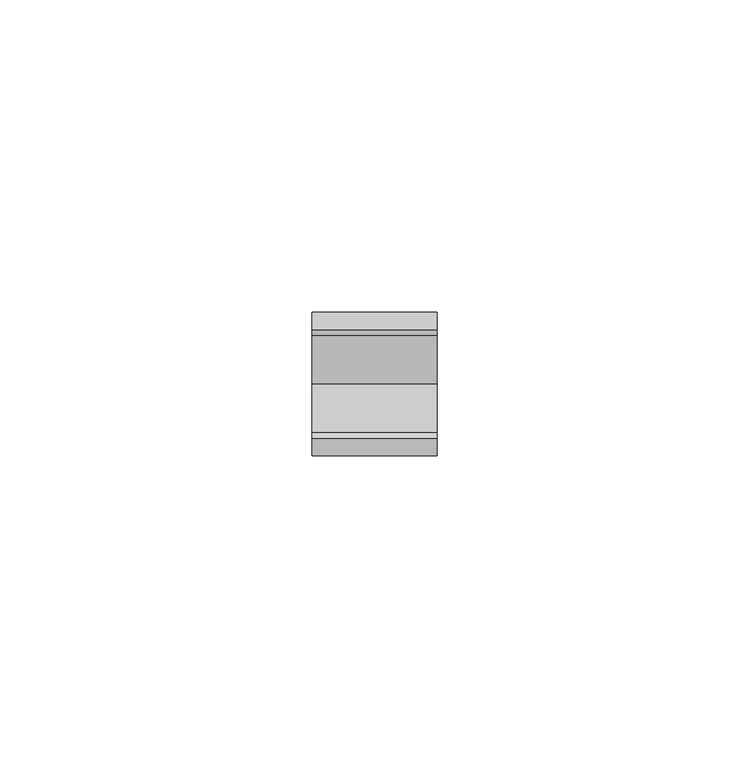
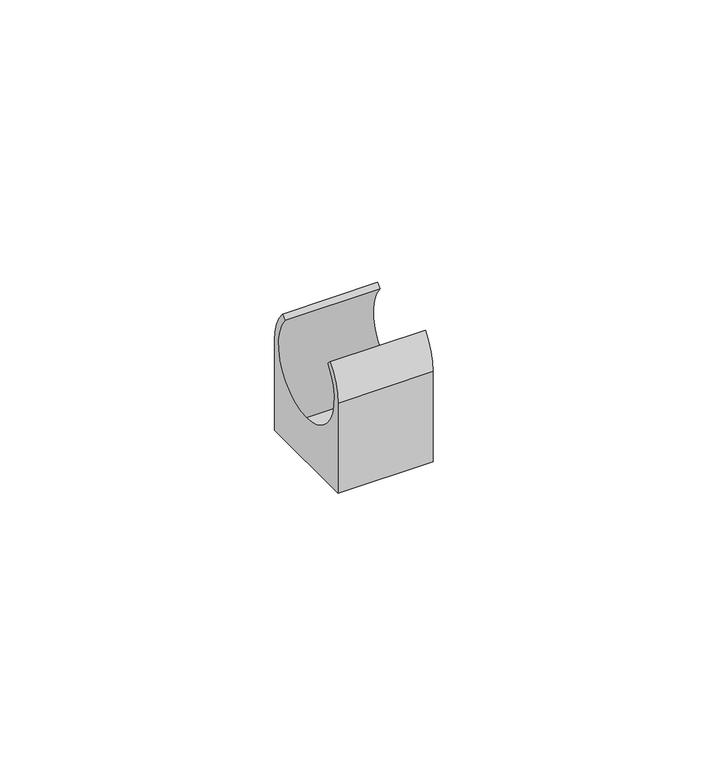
"""IFC4 building model written with IfcOpenShell, lengths in millimetres: cable carrier fitting geometry, Держатель с защелкой CF : CTA10D-CF20-K41-100."""

from ifc_helpers import new_model, si_unit, point, frame, origin, origin_2d, place, context, project, spatial, polyline, circle_curve, trimmed, segment, composite_curve, outline, extrude, source, transform, mapped, element, save


def cable_carrier_fitting_8512dd8d(model_context):
    return source(origin(), model_context, "Body", "SweptSolid", [
        extrude(outline(composite_curve([segment(trimmed(circle_curve(origin_2d(), 10.2408834), [point((0.0, -10.2408834))], [point((7.8243712, 6.6071862))], True, "CARTESIAN"), True, "CONTINUOUS"), segment(polyline([(7.8243712, 6.6071862), (8.7175144, 7.5003295)]), True, "CONTINUOUS"), segment(trimmed(circle_curve(origin_2d(), 11.5), [point((8.7175144, 7.5003295))], [point((11.5, 0.0))], False, "CARTESIAN"), True, "CONTINUOUS"), segment(polyline([(11.5, 0.0), (11.5, -20.0), (-11.5, -20.0), (-11.5, 0.0)]), True, "CONTINUOUS"), segment(trimmed(circle_curve(origin_2d(), 11.5), [point((-11.5, 0.0))], [point((-8.7175144, 7.5003295))], False, "CARTESIAN"), True, "CONTINUOUS"), segment(polyline([(-8.7175144, 7.5003295), (-7.8243712, 6.6071862)]), True, "CONTINUOUS"), segment(trimmed(circle_curve(origin_2d(), 10.2408834), [point((-7.8243712, 6.6071862))], [point((0.0, -10.2408834))], True, "CARTESIAN"), True, "CONTINUOUS")], self_intersect=False)), frame((-10.0, 0.0, 0.0), z_axis=(1.0, 0.0, 0.0), x_axis=(0.0, 1.0, 0.0)), (0.0, 0.0, 1.0), 20.0),
    ])


if __name__ == "__main__":
    model = new_model("IFC4")
    model_context = context("Model", 3, world=origin())
    ifc_project = project(units=[si_unit("LENGTHUNIT", "METRE", prefix="MILLI")], contexts=[model_context])
    site = spatial("IfcSite", under=ifc_project)
    building = spatial("IfcBuilding", under=site)
    placement = place(None, origin())
    cable_carrier_fitting_shape = cable_carrier_fitting_8512dd8d(model_context)
    element("IfcCableCarrierFitting", 1, ObjectType="Держатель с защелкой CF : CTA10D-CF20-K41-100", at=placement, inside=building, context=model_context, shape_type="MappedRepresentation", body=[
        mapped(cable_carrier_fitting_shape, transform((0.0, 0.0, 0.0), x_axis=(1.0, 0.0, 0.0), y_axis=(0.0, 1.0, 0.0), z_axis=(0.0, 0.0, 1.0))),
    ])
    save(model, "model.ifc")
